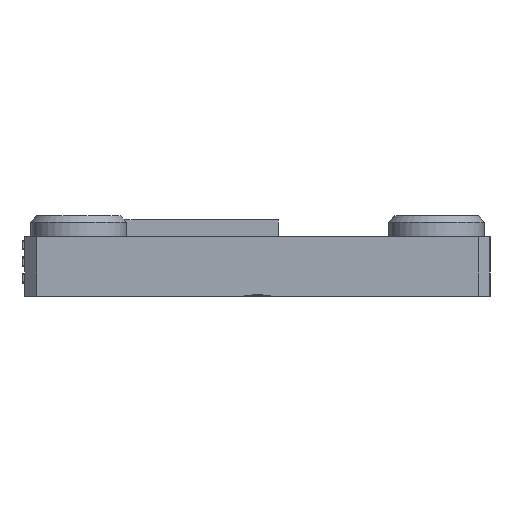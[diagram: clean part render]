
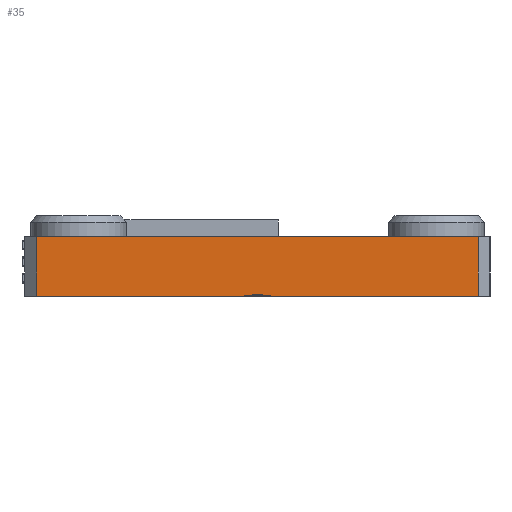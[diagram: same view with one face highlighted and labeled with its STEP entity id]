
A CAD part, left-side view. The second image highlights one B-rep face of the part: STEP entity #35.
In plain terms, the highlighted planar face has unit normal (-1, 0, 0).
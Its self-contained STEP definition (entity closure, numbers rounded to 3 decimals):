
#35 = ADVANCED_FACE('',(#36),#50,.F.);
#36 = FACE_BOUND('',#37,.F.);
#37 = EDGE_LOOP('',(#38,#73,#101,#129,#157,#180));
#38 = ORIENTED_EDGE('',*,*,#39,.F.);
#39 = EDGE_CURVE('',#40,#42,#44,.T.);
#40 = VERTEX_POINT('',#41);
#41 = CARTESIAN_POINT('',(-110.,-37.,0.));
#42 = VERTEX_POINT('',#43);
#43 = CARTESIAN_POINT('',(-110.,-2.555,0.));
#44 = SURFACE_CURVE('',#45,(#49,#61),.PCURVE_S1.);
#45 = LINE('',#46,#47);
#46 = CARTESIAN_POINT('',(-110.,-39.,0.));
#47 = VECTOR('',#48,1.);
#48 = DIRECTION('',(-0.,1.,0.));
#49 = PCURVE('',#50,#55);
#50 = PLANE('',#51);
#51 = AXIS2_PLACEMENT_3D('',#52,#53,#54);
#52 = CARTESIAN_POINT('',(-110.,-39.,-10.));
#53 = DIRECTION('',(1.,0.,-0.));
#54 = DIRECTION('',(0.,0.,1.));
#55 = DEFINITIONAL_REPRESENTATION('',(#56),#60);
#56 = LINE('',#57,#58);
#57 = CARTESIAN_POINT('',(10.,0.));
#58 = VECTOR('',#59,1.);
#59 = DIRECTION('',(0.,-1.));
#60 = ( GEOMETRIC_REPRESENTATION_CONTEXT(2) 
PARAMETRIC_REPRESENTATION_CONTEXT() REPRESENTATION_CONTEXT('2D SPACE',''
  ) );
#61 = PCURVE('',#62,#67);
#62 = PLANE('',#63);
#63 = AXIS2_PLACEMENT_3D('',#64,#65,#66);
#64 = CARTESIAN_POINT('',(-110.,-39.,0.));
#65 = DIRECTION('',(0.,0.,1.));
#66 = DIRECTION('',(1.,0.,-0.));
#67 = DEFINITIONAL_REPRESENTATION('',(#68),#72);
#68 = LINE('',#69,#70);
#69 = CARTESIAN_POINT('',(0.,0.));
#70 = VECTOR('',#71,1.);
#71 = DIRECTION('',(0.,1.));
#72 = ( GEOMETRIC_REPRESENTATION_CONTEXT(2) 
PARAMETRIC_REPRESENTATION_CONTEXT() REPRESENTATION_CONTEXT('2D SPACE',''
  ) );
#73 = ORIENTED_EDGE('',*,*,#74,.F.);
#74 = EDGE_CURVE('',#75,#40,#77,.T.);
#75 = VERTEX_POINT('',#76);
#76 = CARTESIAN_POINT('',(-110.,-37.,-10.));
#77 = SURFACE_CURVE('',#78,(#82,#89),.PCURVE_S1.);
#78 = LINE('',#79,#80);
#79 = CARTESIAN_POINT('',(-110.,-37.,-10.));
#80 = VECTOR('',#81,1.);
#81 = DIRECTION('',(0.,0.,1.));
#82 = PCURVE('',#50,#83);
#83 = DEFINITIONAL_REPRESENTATION('',(#84),#88);
#84 = LINE('',#85,#86);
#85 = CARTESIAN_POINT('',(0.,-2.));
#86 = VECTOR('',#87,1.);
#87 = DIRECTION('',(1.,0.));
#88 = ( GEOMETRIC_REPRESENTATION_CONTEXT(2) 
PARAMETRIC_REPRESENTATION_CONTEXT() REPRESENTATION_CONTEXT('2D SPACE',''
  ) );
#89 = PCURVE('',#90,#95);
#90 = PLANE('',#91);
#91 = AXIS2_PLACEMENT_3D('',#92,#93,#94);
#92 = CARTESIAN_POINT('',(-109.,-38.,-10.));
#93 = DIRECTION('',(-0.707,-0.707,0.));
#94 = DIRECTION('',(-0.,-0.,-1.));
#95 = DEFINITIONAL_REPRESENTATION('',(#96),#100);
#96 = LINE('',#97,#98);
#97 = CARTESIAN_POINT('',(-0.,-1.414));
#98 = VECTOR('',#99,1.);
#99 = DIRECTION('',(-1.,0.));
#100 = ( GEOMETRIC_REPRESENTATION_CONTEXT(2) 
PARAMETRIC_REPRESENTATION_CONTEXT() REPRESENTATION_CONTEXT('2D SPACE',''
  ) );
#101 = ORIENTED_EDGE('',*,*,#102,.T.);
#102 = EDGE_CURVE('',#75,#103,#105,.T.);
#103 = VERTEX_POINT('',#104);
#104 = CARTESIAN_POINT('',(-110.,37.,-10.));
#105 = SURFACE_CURVE('',#106,(#110,#117),.PCURVE_S1.);
#106 = LINE('',#107,#108);
#107 = CARTESIAN_POINT('',(-110.,-39.,-10.));
#108 = VECTOR('',#109,1.);
#109 = DIRECTION('',(-0.,1.,0.));
#110 = PCURVE('',#50,#111);
#111 = DEFINITIONAL_REPRESENTATION('',(#112),#116);
#112 = LINE('',#113,#114);
#113 = CARTESIAN_POINT('',(0.,0.));
#114 = VECTOR('',#115,1.);
#115 = DIRECTION('',(0.,-1.));
#116 = ( GEOMETRIC_REPRESENTATION_CONTEXT(2) 
PARAMETRIC_REPRESENTATION_CONTEXT() REPRESENTATION_CONTEXT('2D SPACE',''
  ) );
#117 = PCURVE('',#118,#123);
#118 = PLANE('',#119);
#119 = AXIS2_PLACEMENT_3D('',#120,#121,#122);
#120 = CARTESIAN_POINT('',(-110.,-39.,-10.));
#121 = DIRECTION('',(0.,0.,1.));
#122 = DIRECTION('',(1.,0.,-0.));
#123 = DEFINITIONAL_REPRESENTATION('',(#124),#128);
#124 = LINE('',#125,#126);
#125 = CARTESIAN_POINT('',(0.,0.));
#126 = VECTOR('',#127,1.);
#127 = DIRECTION('',(0.,1.));
#128 = ( GEOMETRIC_REPRESENTATION_CONTEXT(2) 
PARAMETRIC_REPRESENTATION_CONTEXT() REPRESENTATION_CONTEXT('2D SPACE',''
  ) );
#129 = ORIENTED_EDGE('',*,*,#130,.T.);
#130 = EDGE_CURVE('',#103,#131,#133,.T.);
#131 = VERTEX_POINT('',#132);
#132 = CARTESIAN_POINT('',(-110.,37.,0.));
#133 = SURFACE_CURVE('',#134,(#138,#145),.PCURVE_S1.);
#134 = LINE('',#135,#136);
#135 = CARTESIAN_POINT('',(-110.,37.,-10.));
#136 = VECTOR('',#137,1.);
#137 = DIRECTION('',(0.,0.,1.));
#138 = PCURVE('',#50,#139);
#139 = DEFINITIONAL_REPRESENTATION('',(#140),#144);
#140 = LINE('',#141,#142);
#141 = CARTESIAN_POINT('',(0.,-76.));
#142 = VECTOR('',#143,1.);
#143 = DIRECTION('',(1.,0.));
#144 = ( GEOMETRIC_REPRESENTATION_CONTEXT(2) 
PARAMETRIC_REPRESENTATION_CONTEXT() REPRESENTATION_CONTEXT('2D SPACE',''
  ) );
#145 = PCURVE('',#146,#151);
#146 = PLANE('',#147);
#147 = AXIS2_PLACEMENT_3D('',#148,#149,#150);
#148 = CARTESIAN_POINT('',(-109.,38.,-10.));
#149 = DIRECTION('',(0.707,-0.707,0.));
#150 = DIRECTION('',(-0.,-0.,-1.));
#151 = DEFINITIONAL_REPRESENTATION('',(#152),#156);
#152 = LINE('',#153,#154);
#153 = CARTESIAN_POINT('',(-0.,-1.414));
#154 = VECTOR('',#155,1.);
#155 = DIRECTION('',(-1.,0.));
#156 = ( GEOMETRIC_REPRESENTATION_CONTEXT(2) 
PARAMETRIC_REPRESENTATION_CONTEXT() REPRESENTATION_CONTEXT('2D SPACE',''
  ) );
#157 = ORIENTED_EDGE('',*,*,#158,.F.);
#158 = EDGE_CURVE('',#159,#131,#161,.T.);
#159 = VERTEX_POINT('',#160);
#160 = CARTESIAN_POINT('',(-110.,2.555,0.));
#161 = SURFACE_CURVE('',#162,(#166,#173),.PCURVE_S1.);
#162 = LINE('',#163,#164);
#163 = CARTESIAN_POINT('',(-110.,-39.,0.));
#164 = VECTOR('',#165,1.);
#165 = DIRECTION('',(-0.,1.,0.));
#166 = PCURVE('',#50,#167);
#167 = DEFINITIONAL_REPRESENTATION('',(#168),#172);
#168 = LINE('',#169,#170);
#169 = CARTESIAN_POINT('',(10.,0.));
#170 = VECTOR('',#171,1.);
#171 = DIRECTION('',(0.,-1.));
#172 = ( GEOMETRIC_REPRESENTATION_CONTEXT(2) 
PARAMETRIC_REPRESENTATION_CONTEXT() REPRESENTATION_CONTEXT('2D SPACE',''
  ) );
#173 = PCURVE('',#62,#174);
#174 = DEFINITIONAL_REPRESENTATION('',(#175),#179);
#175 = LINE('',#176,#177);
#176 = CARTESIAN_POINT('',(0.,0.));
#177 = VECTOR('',#178,1.);
#178 = DIRECTION('',(0.,1.));
#179 = ( GEOMETRIC_REPRESENTATION_CONTEXT(2) 
PARAMETRIC_REPRESENTATION_CONTEXT() REPRESENTATION_CONTEXT('2D SPACE',''
  ) );
#180 = ORIENTED_EDGE('',*,*,#181,.T.);
#181 = EDGE_CURVE('',#159,#42,#182,.T.);
#182 = SURFACE_CURVE('',#183,(#188,#195),.PCURVE_S1.);
#183 = HYPERBOLA('',#184,17.772,15.);
#184 = AXIS2_PLACEMENT_3D('',#185,#186,#187);
#185 = CARTESIAN_POINT('',(-110.,0.,-18.028));
#186 = DIRECTION('',(1.,0.,-0.));
#187 = DIRECTION('',(0.,0.,1.));
#188 = PCURVE('',#50,#189);
#189 = DEFINITIONAL_REPRESENTATION('',(#190),#194);
#190 = ( BOUNDED_CURVE() B_SPLINE_CURVE(2,(#191,#192,#193),
.UNSPECIFIED.,.F.,.F.) B_SPLINE_CURVE_WITH_KNOTS((3,3),(-0.17,
0.17),.PIECEWISE_BEZIER_KNOTS.) CURVE() 
GEOMETRIC_REPRESENTATION_ITEM() RATIONAL_B_SPLINE_CURVE((1.,
1.014,1.)) REPRESENTATION_ITEM('') );
#191 = CARTESIAN_POINT('',(10.,-41.555));
#192 = CARTESIAN_POINT('',(9.492,-39.));
#193 = CARTESIAN_POINT('',(10.,-36.445));
#194 = ( GEOMETRIC_REPRESENTATION_CONTEXT(2) 
PARAMETRIC_REPRESENTATION_CONTEXT() REPRESENTATION_CONTEXT('2D SPACE',''
  ) );
#195 = PCURVE('',#196,#201);
#196 = CONICAL_SURFACE('',#197,13.95,0.701);
#197 = AXIS2_PLACEMENT_3D('',#198,#199,#200);
#198 = CARTESIAN_POINT('',(-95.,0.,-1.5));
#199 = DIRECTION('',(0.,0.,1.));
#200 = DIRECTION('',(1.,0.,-0.));
#201 = DEFINITIONAL_REPRESENTATION('',(#202),#209);
#202 = B_SPLINE_CURVE_WITH_KNOTS('',5,(#203,#204,#205,#206,#207,#208),
  .UNSPECIFIED.,.F.,.F.,(6,6),(-0.17,0.17),
  .PIECEWISE_BEZIER_KNOTS.);
#203 = CARTESIAN_POINT('',(2.973,1.5));
#204 = CARTESIAN_POINT('',(3.04,1.295));
#205 = CARTESIAN_POINT('',(3.108,1.193));
#206 = CARTESIAN_POINT('',(3.176,1.193));
#207 = CARTESIAN_POINT('',(3.243,1.295));
#208 = CARTESIAN_POINT('',(3.31,1.5));
#209 = ( GEOMETRIC_REPRESENTATION_CONTEXT(2) 
PARAMETRIC_REPRESENTATION_CONTEXT() REPRESENTATION_CONTEXT('2D SPACE',''
  ) );
